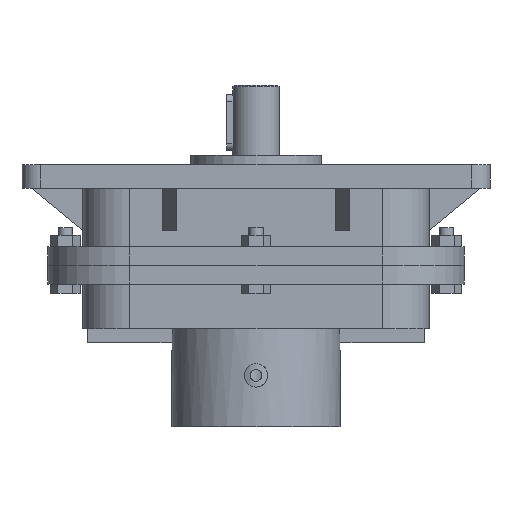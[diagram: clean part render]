
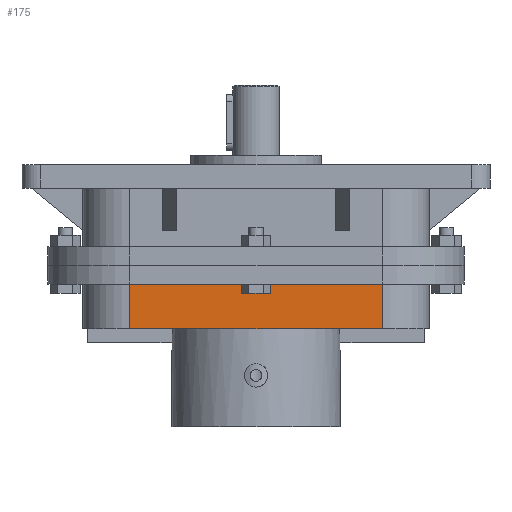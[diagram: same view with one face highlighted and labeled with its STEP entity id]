
A CAD part, left-side view. The second image highlights one B-rep face of the part: STEP entity #175.
In plain terms, the highlighted planar face has unit normal (-1, 0, 0).
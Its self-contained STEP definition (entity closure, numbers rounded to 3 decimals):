
#175 = ADVANCED_FACE('',(#176),#190,.T.);
#176 = FACE_BOUND('',#177,.T.);
#177 = EDGE_LOOP('',(#178,#213,#241,#267));
#178 = ORIENTED_EDGE('',*,*,#179,.F.);
#179 = EDGE_CURVE('',#180,#182,#184,.T.);
#180 = VERTEX_POINT('',#181);
#181 = CARTESIAN_POINT('',(-20.,-27.,0.));
#182 = VERTEX_POINT('',#183);
#183 = CARTESIAN_POINT('',(-20.,27.,0.));
#184 = SURFACE_CURVE('',#185,(#189,#201),.PCURVE_S1.);
#185 = LINE('',#186,#187);
#186 = CARTESIAN_POINT('',(-20.,0.,0.));
#187 = VECTOR('',#188,1.);
#188 = DIRECTION('',(0.,1.,0.));
#189 = PCURVE('',#190,#195);
#190 = PLANE('',#191);
#191 = AXIS2_PLACEMENT_3D('',#192,#193,#194);
#192 = CARTESIAN_POINT('',(-20.,-27.,0.));
#193 = DIRECTION('',(-1.,0.,0.));
#194 = DIRECTION('',(0.,1.,0.));
#195 = DEFINITIONAL_REPRESENTATION('',(#196),#200);
#196 = LINE('',#197,#198);
#197 = CARTESIAN_POINT('',(27.,0.));
#198 = VECTOR('',#199,1.);
#199 = DIRECTION('',(1.,0.));
#200 = ( GEOMETRIC_REPRESENTATION_CONTEXT(2) 
PARAMETRIC_REPRESENTATION_CONTEXT() REPRESENTATION_CONTEXT('2D SPACE',''
  ) );
#201 = PCURVE('',#202,#207);
#202 = PLANE('',#203);
#203 = AXIS2_PLACEMENT_3D('',#204,#205,#206);
#204 = CARTESIAN_POINT('',(46.5,0.,0.));
#205 = DIRECTION('',(0.,0.,1.));
#206 = DIRECTION('',(1.,0.,-0.));
#207 = DEFINITIONAL_REPRESENTATION('',(#208),#212);
#208 = LINE('',#209,#210);
#209 = CARTESIAN_POINT('',(-66.5,0.));
#210 = VECTOR('',#211,1.);
#211 = DIRECTION('',(0.,1.));
#212 = ( GEOMETRIC_REPRESENTATION_CONTEXT(2) 
PARAMETRIC_REPRESENTATION_CONTEXT() REPRESENTATION_CONTEXT('2D SPACE',''
  ) );
#213 = ORIENTED_EDGE('',*,*,#214,.T.);
#214 = EDGE_CURVE('',#180,#215,#217,.T.);
#215 = VERTEX_POINT('',#216);
#216 = CARTESIAN_POINT('',(-20.,-27.,9.5));
#217 = SURFACE_CURVE('',#218,(#222,#229),.PCURVE_S1.);
#218 = LINE('',#219,#220);
#219 = CARTESIAN_POINT('',(-20.,-27.,0.));
#220 = VECTOR('',#221,1.);
#221 = DIRECTION('',(0.,0.,1.));
#222 = PCURVE('',#190,#223);
#223 = DEFINITIONAL_REPRESENTATION('',(#224),#228);
#224 = LINE('',#225,#226);
#225 = CARTESIAN_POINT('',(0.,0.));
#226 = VECTOR('',#227,1.);
#227 = DIRECTION('',(0.,-1.));
#228 = ( GEOMETRIC_REPRESENTATION_CONTEXT(2) 
PARAMETRIC_REPRESENTATION_CONTEXT() REPRESENTATION_CONTEXT('2D SPACE',''
  ) );
#229 = PCURVE('',#230,#235);
#230 = CYLINDRICAL_SURFACE('',#231,10.);
#231 = AXIS2_PLACEMENT_3D('',#232,#233,#234);
#232 = CARTESIAN_POINT('',(-10.,-27.,0.));
#233 = DIRECTION('',(-0.,-0.,-1.));
#234 = DIRECTION('',(1.,0.,0.));
#235 = DEFINITIONAL_REPRESENTATION('',(#236),#240);
#236 = LINE('',#237,#238);
#237 = CARTESIAN_POINT('',(-3.142,0.));
#238 = VECTOR('',#239,1.);
#239 = DIRECTION('',(-0.,-1.));
#240 = ( GEOMETRIC_REPRESENTATION_CONTEXT(2) 
PARAMETRIC_REPRESENTATION_CONTEXT() REPRESENTATION_CONTEXT('2D SPACE',''
  ) );
#241 = ORIENTED_EDGE('',*,*,#242,.T.);
#242 = EDGE_CURVE('',#215,#243,#245,.T.);
#243 = VERTEX_POINT('',#244);
#244 = CARTESIAN_POINT('',(-20.,27.,9.5));
#245 = SURFACE_CURVE('',#246,(#250,#256),.PCURVE_S1.);
#246 = LINE('',#247,#248);
#247 = CARTESIAN_POINT('',(-20.,-13.5,9.5));
#248 = VECTOR('',#249,1.);
#249 = DIRECTION('',(0.,1.,-0.));
#250 = PCURVE('',#190,#251);
#251 = DEFINITIONAL_REPRESENTATION('',(#252),#255);
#252 = B_SPLINE_CURVE_WITH_KNOTS('',1,(#253,#254),.UNSPECIFIED.,.F.,.F.,
  (2,2),(-13.5,40.5),.PIECEWISE_BEZIER_KNOTS.);
#253 = CARTESIAN_POINT('',(0.,-9.5));
#254 = CARTESIAN_POINT('',(54.,-9.5));
#255 = ( GEOMETRIC_REPRESENTATION_CONTEXT(2) 
PARAMETRIC_REPRESENTATION_CONTEXT() REPRESENTATION_CONTEXT('2D SPACE',''
  ) );
#256 = PCURVE('',#257,#262);
#257 = PLANE('',#258);
#258 = AXIS2_PLACEMENT_3D('',#259,#260,#261);
#259 = CARTESIAN_POINT('',(46.5,0.,9.5));
#260 = DIRECTION('',(0.,0.,1.));
#261 = DIRECTION('',(1.,0.,-0.));
#262 = DEFINITIONAL_REPRESENTATION('',(#263),#266);
#263 = B_SPLINE_CURVE_WITH_KNOTS('',1,(#264,#265),.UNSPECIFIED.,.F.,.F.,
  (2,2),(-13.5,40.5),.PIECEWISE_BEZIER_KNOTS.);
#264 = CARTESIAN_POINT('',(-66.5,-27.));
#265 = CARTESIAN_POINT('',(-66.5,27.));
#266 = ( GEOMETRIC_REPRESENTATION_CONTEXT(2) 
PARAMETRIC_REPRESENTATION_CONTEXT() REPRESENTATION_CONTEXT('2D SPACE',''
  ) );
#267 = ORIENTED_EDGE('',*,*,#268,.F.);
#268 = EDGE_CURVE('',#182,#243,#269,.T.);
#269 = SURFACE_CURVE('',#270,(#274,#281),.PCURVE_S1.);
#270 = LINE('',#271,#272);
#271 = CARTESIAN_POINT('',(-20.,27.,0.));
#272 = VECTOR('',#273,1.);
#273 = DIRECTION('',(0.,0.,1.));
#274 = PCURVE('',#190,#275);
#275 = DEFINITIONAL_REPRESENTATION('',(#276),#280);
#276 = LINE('',#277,#278);
#277 = CARTESIAN_POINT('',(54.,0.));
#278 = VECTOR('',#279,1.);
#279 = DIRECTION('',(0.,-1.));
#280 = ( GEOMETRIC_REPRESENTATION_CONTEXT(2) 
PARAMETRIC_REPRESENTATION_CONTEXT() REPRESENTATION_CONTEXT('2D SPACE',''
  ) );
#281 = PCURVE('',#282,#287);
#282 = CYLINDRICAL_SURFACE('',#283,10.);
#283 = AXIS2_PLACEMENT_3D('',#284,#285,#286);
#284 = CARTESIAN_POINT('',(-10.,27.,0.));
#285 = DIRECTION('',(-0.,-0.,-1.));
#286 = DIRECTION('',(1.,0.,0.));
#287 = DEFINITIONAL_REPRESENTATION('',(#288),#292);
#288 = LINE('',#289,#290);
#289 = CARTESIAN_POINT('',(-3.142,0.));
#290 = VECTOR('',#291,1.);
#291 = DIRECTION('',(-0.,-1.));
#292 = ( GEOMETRIC_REPRESENTATION_CONTEXT(2) 
PARAMETRIC_REPRESENTATION_CONTEXT() REPRESENTATION_CONTEXT('2D SPACE',''
  ) );
